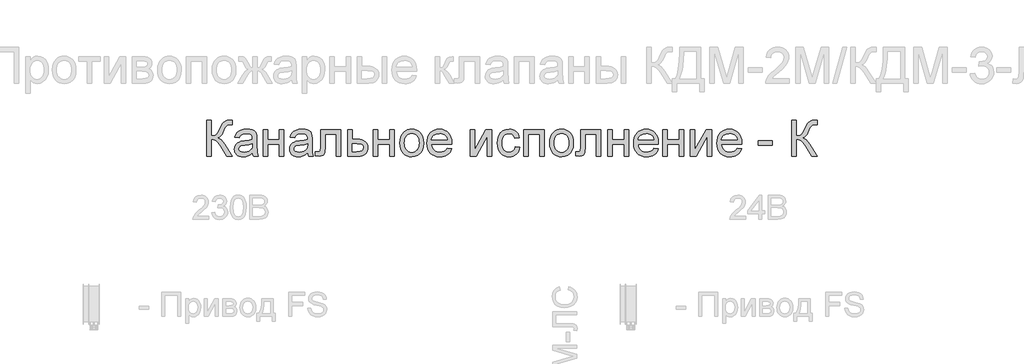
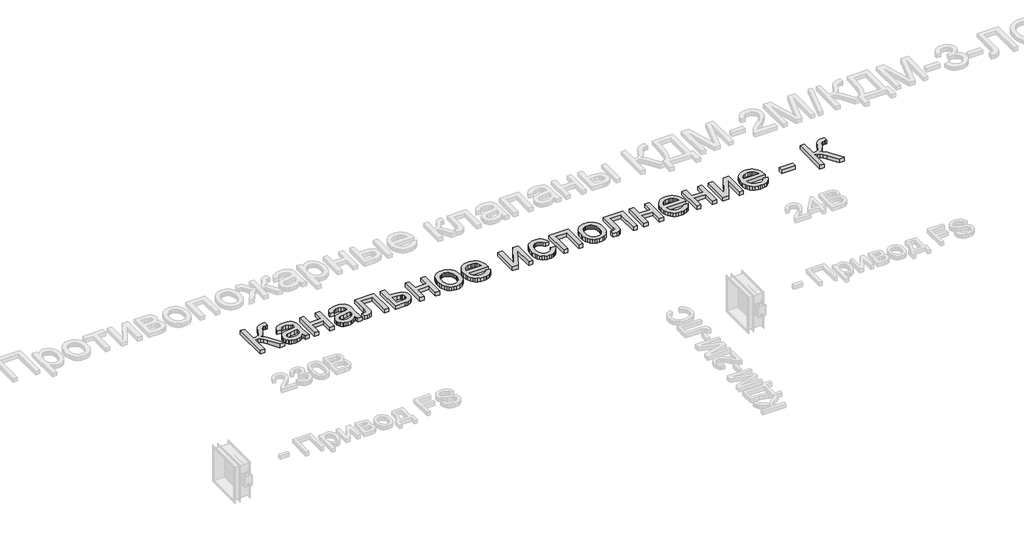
# One storey, part 7 of 23: 1 proxy.
"""IFC4 building model written with IfcOpenShell, lengths in millimetres."""

from ifc_helpers import new_model, si_unit, origin, origin_with_axes, place, context, project, spatial, polyline, outline, extrude, element, save

model = new_model("IFC4")

# Units and contexts
model_context = context("Model", 3, world=origin())
ifc_project = project(units=[si_unit("LENGTHUNIT", "METRE", prefix="MILLI")], contexts=[model_context])

# Site, building, storey
site = spatial("IfcSite", under=ifc_project)
building = spatial("IfcBuilding", under=site)
storey = spatial("IfcBuildingStorey", under=building, Name="Этаж 01", Elevation=0.0)

# Proxy
placement = place(None, origin())
element("IfcBuildingElementProxy", 1, Name="450 мм Arial", ObjectType="450 мм Arial", at=placement, inside=storey, context=model_context, shape_type="SweptSolid", body=[
    extrude(outline(polyline([(3648.5482803, -12674.0978463), (3704.7552982, -12674.0978463), (3704.7552982, -12870.8224088), (3742.807559, -12867.1036339), (3767.6039656, -12855.9473093), (3787.652416, -12829.6963266), (3811.4608086, -12780.6935774), (3842.4734698, -12717.84491), (3857.4309038, -12700.8153911), (3877.602856, -12686.7224694), (3901.5484727, -12677.2540021), (3927.8269003, -12674.0978463), (3964.7127557, -12674.7565223), (3964.7127557, -12730.9635401), (3952.3076912, -12730.6342021), (3939.9026267, -12730.3048641), (3914.1593735, -12733.6805786), (3895.9908941, -12743.8077219), (3880.3473393, -12765.0774675), (3862.6179772, -12801.6614298), (3840.8679471, -12847.2198524), (3822.8229694, -12872.1397607), (3805.0249953, -12885.2583909), (3784.0159757, -12895.4129791), (3805.7865894, -12904.6756102), (3827.4062565, -12920.8268944), (3848.8749771, -12943.8668316), (3870.1927511, -12973.7954219), (3964.7127557, -13123.7539891), (3899.5038327, -13123.7539891), (3819.5844792, -12997.0686403), (3788.7227645, -12956.4365651), (3763.3225716, -12930.9265929), (3737.3460373, -12917.4649023), (3704.7552982, -12912.9776721), (3704.7552982, -13123.7539891), (3648.5482803, -13123.7539891), (3648.5482803, -12674.0978463)])), origin_with_axes(), (0.0, 0.0, 1.0), 50.0),
    extrude(outline(polyline([(4217.6443361, -13081.5987257), (4190.789567, -13104.6249405), (4163.1388978, -13119.6921538), (4134.0610974, -13128.0079382), (4102.9249344, -13130.7798663), (4077.8986774, -13129.1125927), (4055.9531028, -13124.1107719), (4037.0882108, -13115.7744039), (4021.3040012, -13104.1034887), (4008.8406165, -13089.8390368), (3999.9381988, -13073.7220587), (3994.5967482, -13055.7525543), (3992.8162646, -13035.9305237), (3995.5058583, -13012.6298605), (4003.5746392, -12991.4698943), (4016.0208709, -12973.3563046), (4031.8428171, -12959.1947708), (4050.4366914, -12948.491286), (4071.1987075, -12940.7518431), (4119.8309515, -12932.2988345), (4177.3004316, -12923.4067087), (4217.3149981, -12912.9776721), (4217.6443361, -12900.4628283), (4213.7746146, -12875.378251), (4202.1654503, -12858.9662409), (4176.2026383, -12846.7807351), (4140.0303485, -12842.7188998), (4106.5476523, -12845.4222159), (4083.1646547, -12853.532164), (4067.2192067, -12868.5307652), (4056.0491597, -12891.9000405), (3999.8421419, -12884.8741632), (4009.59878, -12854.1359503), (4024.1582639, -12829.9844974), (4044.8791127, -12811.5141248), (4073.1198458, -12797.8191532), (4107.6591681, -12789.3386998), (4147.2757844, -12786.511882), (4185.2731556, -12789.0093618), (4215.3938598, -12796.5018012), (4238.104459, -12807.7679051), (4253.8715155, -12821.5863785), (4264.3279969, -12838.670787), (4271.1068706, -12859.7346963), (4273.8513539, -12908.9158369), (4273.8513539, -12978.8452712), (4276.7056165, -13076.4939868), (4287.9031084, -13123.7539891), (4231.6960905, -13123.7539891), (4222.6941853, -13104.213268), (4217.6443361, -13081.5987257)]), holes=[polyline([(4217.6443361, -12969.18469), (4179.8802459, -12978.543378), (4126.966608, -12986.4200451), (4078.6088124, -12995.5317296), (4066.0253565, -13001.7617067), (4056.7078357, -13010.3519394), (4050.9444208, -13020.6437518), (4049.0232825, -13031.9784678), (4053.2086195, -13048.692371), (4065.7646306, -13062.3873427), (4086.4168674, -13071.526472), (4114.8908815, -13074.5728485), (4145.0801978, -13071.2108564), (4171.7565754, -13061.1248803), (4193.3831037, -13046.2635033), (4208.4228722, -13028.5753085), (4215.0919666, -13010.3519394), (4217.3149981, -12985.1026931), (4217.6443361, -12969.18469)])]), origin_with_axes(), (0.0, 0.0, 1.0), 50.0),
    extrude(outline(polyline([(4351.1360035, -12793.5377592), (4407.3430213, -12793.5377592), (4407.3430213, -12920.0035494), (4554.8864432, -12920.0035494), (4554.8864432, -12793.5377592), (4611.093461, -12793.5377592), (4611.093461, -13123.7539891), (4554.8864432, -13123.7539891), (4554.8864432, -12976.2105672), (4407.3430213, -12976.2105672), (4407.3430213, -13123.7539891), (4351.1360035, -13123.7539891), (4351.1360035, -12793.5377592)])), origin_with_axes(), (0.0, 0.0, 1.0), 50.0),
    extrude(outline(polyline([(4906.1803047, -13081.5987257), (4879.3255357, -13104.6249405), (4851.6748665, -13119.6921538), (4822.597066, -13128.0079382), (4791.4609031, -13130.7798663), (4766.434646, -13129.1125927), (4744.4890715, -13124.1107719), (4725.6241795, -13115.7744039), (4709.8399699, -13104.1034887), (4697.3765852, -13089.8390368), (4688.4741675, -13073.7220587), (4683.1327169, -13055.7525543), (4681.3522333, -13035.9305237), (4684.041827, -13012.6298605), (4692.1106078, -12991.4698943), (4704.5568396, -12973.3563046), (4720.3787858, -12959.1947708), (4738.9726601, -12948.491286), (4759.7346762, -12940.7518431), (4808.3669202, -12932.2988345), (4865.8364003, -12923.4067087), (4905.8509668, -12912.9776721), (4906.1803047, -12900.4628283), (4902.3105833, -12875.378251), (4890.701419, -12858.9662409), (4864.738607, -12846.7807351), (4828.5663172, -12842.7188998), (4795.083621, -12845.4222159), (4771.7006234, -12853.532164), (4755.7551754, -12868.5307652), (4744.5851284, -12891.9000405), (4688.3781106, -12884.8741632), (4698.1347487, -12854.1359503), (4712.6942326, -12829.9844974), (4733.4150814, -12811.5141248), (4761.6558145, -12797.8191532), (4796.1951368, -12789.3386998), (4835.8117531, -12786.511882), (4873.8091243, -12789.0093618), (4903.9298284, -12796.5018012), (4926.6404277, -12807.7679051), (4942.4074842, -12821.5863785), (4952.8639656, -12838.670787), (4959.6428393, -12859.7346963), (4962.3873226, -12908.9158369), (4962.3873226, -12978.8452712), (4965.2415852, -13076.4939868), (4976.4390771, -13123.7539891), (4920.2320592, -13123.7539891), (4911.230154, -13104.213268), (4906.1803047, -13081.5987257)]), holes=[polyline([(4906.1803047, -12969.18469), (4868.4162146, -12978.543378), (4815.5025767, -12986.4200451), (4767.1447811, -12995.5317296), (4754.5613252, -13001.7617067), (4745.2438044, -13010.3519394), (4739.4803895, -13020.6437518), (4737.5592512, -13031.9784678), (4741.7445882, -13048.692371), (4754.3005993, -13062.3873427), (4774.9528361, -13071.526472), (4803.4268502, -13074.5728485), (4833.6161665, -13071.2108564), (4860.2925441, -13061.1248803), (4881.9190724, -13046.2635033), (4896.9588409, -13028.5753085), (4903.6279353, -13010.3519394), (4905.8509668, -12985.1026931), (4906.1803047, -12969.18469)])]), origin_with_axes(), (0.0, 0.0, 1.0), 50.0),
    extrude(outline(polyline([(5067.7754811, -12793.5377592), (5320.7070614, -12793.5377592), (5320.7070614, -13123.4246511), (5264.5000436, -13123.4246511), (5264.5000436, -12849.7447771), (5123.9824989, -12849.7447771), (5123.9824989, -13007.2781181), (5120.195112, -13079.9520357), (5113.1006227, -13096.4052131), (5099.3919286, -13110.635359), (5078.5887452, -13120.4743316), (5050.210788, -13123.7539891), (5004.542586, -13120.8997265), (5004.542586, -13067.5469712), (5029.682053, -13067.5469712), (5055.0959683, -13064.0889223), (5061.4494471, -13059.6154145), (5065.2505564, -13053.1109891), (5067.7754811, -13004.0945175), (5067.7754811, -12793.5377592)])), origin_with_axes(), (0.0, 0.0, 1.0), 50.0),
    extrude(outline(polyline([(5405.0175882, -12793.5377592), (5461.224606, -12793.5377592), (5461.224606, -12912.9776721), (5525.9944118, -12912.9776721), (5555.8955572, -12914.7375721), (5582.14654, -12920.0172718), (5604.7473599, -12928.8167714), (5623.698017, -12941.1360707), (5638.6828958, -12956.549775), (5649.3863806, -12974.6324893), (5655.8084716, -12995.3842136), (5657.9491685, -13018.8049479), (5656.1275177, -13039.7007576), (5650.6625654, -13059.0253506), (5641.5543114, -13076.7787269), (5628.8027559, -13092.9608865), (5612.0442548, -13106.4328689), (5590.9151641, -13116.0557135), (5565.4154837, -13121.8294202), (5535.5452136, -13123.7539891), (5405.0175882, -13123.7539891), (5405.0175882, -12793.5377592)]), holes=[polyline([(5461.224606, -13067.5469712), (5513.6991266, -13067.5469712), (5554.4135363, -13064.5966517), (5581.487864, -13055.7456931), (5596.678579, -13040.6373126), (5601.7421507, -13018.9147273), (5597.995931, -13000.554134), (5586.7572719, -12984.3342378), (5576.990342, -12977.7063106), (5562.674431, -12972.9720769), (5520.3956658, -12969.18469), (5461.224606, -12969.18469), (5461.224606, -13067.5469712)])]), origin_with_axes(), (0.0, 0.0, 1.0), 50.0),
    extrude(outline(polyline([(5728.2079408, -12793.5377592), (5784.4149587, -12793.5377592), (5784.4149587, -12920.0035494), (5931.9583805, -12920.0035494), (5931.9583805, -12793.5377592), (5988.1653984, -12793.5377592), (5988.1653984, -13123.7539891), (5931.9583805, -13123.7539891), (5931.9583805, -12976.2105672), (5784.4149587, -12976.2105672), (5784.4149587, -13123.7539891), (5728.2079408, -13123.7539891), (5728.2079408, -12793.5377592)])), origin_with_axes(), (0.0, 0.0, 1.0), 50.0),
    extrude(outline(polyline([(6058.4241707, -12958.6458742), (6061.463686, -12915.8799632), (6070.5822317, -12879.0284138), (6085.7798079, -12848.0912259), (6107.0564147, -12823.0683995), (6128.4771068, -12807.0749231), (6152.1208304, -12795.6510114), (6177.9875854, -12788.7966643), (6206.0773719, -12786.511882), (6237.0866025, -12789.2941019), (6265.12493, -12797.6407617), (6290.1923543, -12811.5518614), (6312.2888754, -12831.027401), (6330.3235612, -12855.4087045), (6343.2054797, -12884.0370958), (6350.9346307, -12916.9125751), (6353.5110144, -12954.0351422), (6348.9551722, -13010.8185016), (6343.2603693, -13034.1260259), (6335.2876454, -13054.0441134), (6312.9063841, -13086.4152939), (6282.2093385, -13110.635359), (6245.7488779, -13125.7437395), (6206.0773719, -13130.7798663), (6174.6153016, -13128.0079382), (6146.3162482, -13119.6921538), (6121.1802118, -13105.8325132), (6099.2071925, -13086.4290163), (6081.3646204, -13061.8110012), (6068.6199262, -13032.3078058), (6060.9731096, -12997.9194301), (6058.4241707, -12958.6458742)]), holes=[polyline([(6114.6311886, -12958.5360948), (6116.2572949, -12985.7991057), (6121.135614, -13009.4050927), (6129.2661457, -13029.3540556), (6140.6488902, -13045.6459946), (6154.4948084, -13058.3014931), (6170.0148614, -13067.341135), (6187.2090493, -13072.7649201), (6206.0773719, -13074.5728485), (6224.8496376, -13072.7546283), (6241.9752134, -13067.2999677), (6257.4540992, -13058.2088668), (6271.286295, -13045.4813256), (6282.6690394, -13029.0281482), (6290.7995712, -13008.7601391), (6295.6778902, -12984.6772982), (6297.3039966, -12956.7796255), (6295.6675984, -12930.3811268), (6290.7584039, -12907.3926486), (6282.5764131, -12887.814191), (6271.121626, -12871.6457537), (6257.2379711, -12858.9902552), (6241.7693771, -12849.9506133), (6224.7158441, -12844.5268282), (6206.0773719, -12842.7188998), (6187.2090493, -12844.519967), (6170.0148614, -12849.9231685), (6154.4948084, -12858.9285043), (6140.6488902, -12871.5359744), (6129.2661457, -12887.7798849), (6121.135614, -12907.6945418), (6116.2572949, -12931.2799451), (6114.6311886, -12958.5360948)])]), origin_with_axes(), (0.0, 0.0, 1.0), 50.0),
    extrude(outline(polyline([(6647.9391822, -13025.3917079), (6703.0484067, -13032.4175851), (6694.5988288, -13054.490092), (6683.1920701, -13073.9416173), (6668.8281306, -13090.7721611), (6651.5070105, -13104.9817234), (6631.4071009, -13116.2684109), (6608.7067935, -13124.3303306), (6583.4060881, -13129.1674824), (6555.5049848, -13130.7798663), (6520.6294634, -13127.9976464), (6489.5550513, -13119.6509866), (6462.2817486, -13105.7398869), (6438.8095552, -13086.2643473), (6419.9343714, -13061.7664033), (6406.4520972, -13032.7880903), (6398.3627327, -12999.3294084), (6395.6662778, -12961.3903574), (6398.3901775, -12922.16483), (6406.5618765, -12887.5912017), (6420.1813748, -12857.6694726), (6439.2486725, -12832.3996427), (6462.659115, -12812.3237474), (6489.3080478, -12797.9838221), (6519.1954709, -12789.379867), (6552.3213842, -12786.511882), (6584.3803797, -12789.3730058), (6613.3724151, -12797.9563773), (6639.2974904, -12812.2619965), (6662.1556056, -12832.2898633), (6680.8146614, -12857.5048036), (6694.1425584, -12887.371643), (6702.1392966, -12921.8903816), (6704.804876, -12961.0610195), (6704.475538, -12976.2105672), (6451.8732957, -12976.2105672), (6455.128939, -12998.639857), (6461.602489, -13018.2834961), (6471.2939456, -13035.1414848), (6484.2033089, -13049.2138228), (6499.6170132, -13060.3083966), (6516.8214928, -13068.2330921), (6535.8167478, -13072.9879094), (6556.6027782, -13074.5728485), (6586.5176461, -13071.6362514), (6611.7120027, -13062.82646), (6632.1858481, -13047.5945777), (6647.9391822, -13025.3917079)]), holes=[polyline([(6451.8732957, -12920.0035494), (6648.5978582, -12920.0035494), (6640.9956394, -12890.3082401), (6626.0930952, -12869.0659395), (6610.765156, -12857.5391096), (6593.3239646, -12849.3056597), (6573.7695212, -12844.3655898), (6552.1018256, -12842.7188998), (6514.2142337, -12847.9745853), (6482.8859569, -12863.7416419), (6470.4294334, -12875.1415393), (6461.108482, -12888.3184898), (6454.9231027, -12903.2724931), (6451.8732957, -12920.0035494)])]), origin_with_axes(), (0.0, 0.0, 1.0), 50.0),
    extrude(outline(polyline([(6936.6588247, -12793.5377592), (6992.8658425, -12793.5377592), (6992.8658425, -13045.3715462), (7130.9682418, -12793.5377592), (7203.6421595, -12793.5377592), (7203.6421595, -13123.7539891), (7147.4351416, -13123.7539891), (7147.4351416, -12873.4571127), (7010.2109769, -13123.7539891), (6936.6588247, -13123.7539891), (6936.6588247, -12793.5377592)])), origin_with_axes(), (0.0, 0.0, 1.0), 50.0),
    extrude(outline(polyline([(7498.7290032, -13004.3140762), (7554.936021, -13011.3399534), (7548.8226845, -13037.8619538), (7539.2650214, -13061.3307166), (7526.2630318, -13081.7462417), (7509.8167157, -13099.1085291), (7490.619055, -13112.9647391), (7469.3630319, -13122.862032), (7446.0486464, -13128.8004078), (7420.6758983, -13130.7798663), (7389.1520771, -13128.01823), (7360.8873298, -13119.7333211), (7335.8816564, -13105.9251395), (7314.1350569, -13086.5936853), (7296.5326271, -13062.1026025), (7283.959463, -13032.8155352), (7276.4155646, -12998.7324833), (7273.9009318, -12959.8534468), (7278.1960481, -12909.8352388), (7291.0813972, -12866.4861252), (7300.796868, -12847.7310124), (7312.7628152, -12831.4802407), (7326.9792387, -12817.7338101), (7343.4461384, -12806.4917204), (7380.1536025, -12791.5068416), (7419.907443, -12786.511882), (7444.8445043, -12788.227184), (7467.4007264, -12793.3730902), (7487.5761092, -12801.9496005), (7505.3706527, -12813.9567149), (7520.4824639, -12829.1199851), (7532.6096494, -12847.1649628), (7541.7522094, -12868.0916479), (7547.9101438, -12891.9000405), (7491.7031259, -12898.9259177), (7481.5073705, -12874.4039595), (7465.6305347, -12856.825544), (7444.950853, -12846.2455609), (7420.3465603, -12842.7188998), (7401.2483872, -12844.4547855), (7384.0233239, -12849.6624426), (7368.6713705, -12858.341871), (7355.1925269, -12870.4930708), (7344.2180244, -12886.3973515), (7336.3790939, -12906.3360226), (7331.6757357, -12930.3090841), (7330.1079496, -12958.3165362), (7331.6414297, -12986.7459525), (7336.2418698, -13010.996893), (7343.90927, -13031.0693577), (7354.6436303, -13046.9633465), (7367.8548867, -13059.0425036), (7382.9529754, -13067.670473), (7399.9378964, -13072.8472546), (7418.8096497, -13074.5728485), (7447.914895, -13070.2640097), (7471.7781772, -13057.3374934), (7489.1370341, -13035.4639615), (7498.7290032, -13004.3140762)])), origin_with_axes(), (0.0, 0.0, 1.0), 50.0),
    extrude(outline(polyline([(7604.1171617, -12793.5377592), (7857.048742, -12793.5377592), (7857.048742, -13123.7539891), (7800.8417241, -13123.7539891), (7800.8417241, -12849.7447771), (7660.3241795, -12849.7447771), (7660.3241795, -13123.7539891), (7604.1171617, -13123.7539891), (7604.1171617, -12793.5377592)])), origin_with_axes(), (0.0, 0.0, 1.0), 50.0),
    extrude(outline(polyline([(7927.3075143, -12958.6458742), (7930.3470295, -12915.8799632), (7939.4655753, -12879.0284138), (7954.6631515, -12848.0912259), (7975.9397583, -12823.0683995), (7997.3604504, -12807.0749231), (8021.0041739, -12795.6510114), (8046.870929, -12788.7966643), (8074.9607155, -12786.511882), (8105.9699461, -12789.2941019), (8134.0082736, -12797.6407617), (8159.0756978, -12811.5518614), (8181.172219, -12831.027401), (8199.2069048, -12855.4087045), (8212.0888233, -12884.0370958), (8219.8179743, -12916.9125751), (8222.394358, -12954.0351422), (8217.8385158, -13010.8185016), (8212.1437129, -13034.1260259), (8204.170989, -13054.0441134), (8181.7897277, -13086.4152939), (8151.0926821, -13110.635359), (8114.6322215, -13125.7437395), (8074.9607155, -13130.7798663), (8043.4986451, -13128.0079382), (8015.1995918, -13119.6921538), (7990.0635554, -13105.8325132), (7968.090536, -13086.4290163), (7950.247964, -13061.8110012), (7937.5032697, -13032.3078058), (7929.8564532, -12997.9194301), (7927.3075143, -12958.6458742)]), holes=[polyline([(7983.5145322, -12958.5360948), (7985.1406385, -12985.7991057), (7990.0189576, -13009.4050927), (7998.1494893, -13029.3540556), (8009.5322338, -13045.6459946), (8023.378152, -13058.3014931), (8038.898205, -13067.341135), (8056.0923929, -13072.7649201), (8074.9607155, -13074.5728485), (8093.7329812, -13072.7546283), (8110.858557, -13067.2999677), (8126.3374428, -13058.2088668), (8140.1696386, -13045.4813256), (8151.552383, -13029.0281482), (8159.6829148, -13008.7601391), (8164.5612338, -12984.6772982), (8166.1873402, -12956.7796255), (8164.550942, -12930.3811268), (8159.6417475, -12907.3926486), (8151.4597567, -12887.814191), (8140.0049696, -12871.6457537), (8126.1213147, -12858.9902552), (8110.6527207, -12849.9506133), (8093.5991877, -12844.5268282), (8074.9607155, -12842.7188998), (8056.0923929, -12844.519967), (8038.898205, -12849.9231685), (8023.378152, -12858.9285043), (8009.5322338, -12871.5359744), (7998.1494893, -12887.7798849), (7990.0189576, -12907.6945418), (7985.1406385, -12931.2799451), (7983.5145322, -12958.5360948)])]), origin_with_axes(), (0.0, 0.0, 1.0), 50.0),
    extrude(outline(polyline([(8313.730762, -12793.5377592), (8566.6623424, -12793.5377592), (8566.6623424, -13123.4246511), (8510.4553245, -13123.4246511), (8510.4553245, -12849.7447771), (8369.9377799, -12849.7447771), (8369.9377799, -13007.2781181), (8366.1503929, -13079.9520357), (8359.0559036, -13096.4052131), (8345.3472096, -13110.635359), (8324.5440262, -13120.4743316), (8296.166069, -13123.7539891), (8250.497867, -13120.8997265), (8250.497867, -13067.5469712), (8275.6373339, -13067.5469712), (8301.0512492, -13064.0889223), (8307.404728, -13059.6154145), (8311.2058374, -13053.1109891), (8313.730762, -13004.0945175), (8313.730762, -12793.5377592)])), origin_with_axes(), (0.0, 0.0, 1.0), 50.0),
    extrude(outline(polyline([(8650.9728691, -12793.5377592), (8707.179887, -12793.5377592), (8707.179887, -12920.0035494), (8854.7233089, -12920.0035494), (8854.7233089, -12793.5377592), (8910.9303267, -12793.5377592), (8910.9303267, -13123.7539891), (8854.7233089, -13123.7539891), (8854.7233089, -12976.2105672), (8707.179887, -12976.2105672), (8707.179887, -13123.7539891), (8650.9728691, -13123.7539891), (8650.9728691, -12793.5377592)])), origin_with_axes(), (0.0, 0.0, 1.0), 50.0),
    extrude(outline(polyline([(9226.4361261, -13025.3917079), (9281.5453507, -13032.4175851), (9273.0957727, -13054.490092), (9261.689014, -13073.9416173), (9247.3250746, -13090.7721611), (9230.0039544, -13104.9817234), (9209.9040449, -13116.2684109), (9187.2037375, -13124.3303306), (9161.9030321, -13129.1674824), (9134.0019288, -13130.7798663), (9099.1264074, -13127.9976464), (9068.0519953, -13119.6509866), (9040.7786925, -13105.7398869), (9017.3064992, -13086.2643473), (8998.4313153, -13061.7664033), (8984.9490411, -13032.7880903), (8976.8596766, -12999.3294084), (8974.1632218, -12961.3903574), (8976.8871215, -12922.16483), (8985.0588205, -12887.5912017), (8998.6783188, -12857.6694726), (9017.7456165, -12832.3996427), (9041.156059, -12812.3237474), (9067.8049918, -12797.9838221), (9097.6924148, -12789.379867), (9130.8183282, -12786.511882), (9162.8773237, -12789.3730058), (9191.8693591, -12797.9563773), (9217.7944344, -12812.2619965), (9240.6525496, -12832.2898633), (9259.3116054, -12857.5048036), (9272.6395024, -12887.371643), (9280.6362406, -12921.8903816), (9283.30182, -12961.0610195), (9282.972482, -12976.2105672), (9030.3702397, -12976.2105672), (9033.625883, -12998.639857), (9040.0994329, -13018.2834961), (9049.7908896, -13035.1414848), (9062.7002528, -13049.2138228), (9078.1139571, -13060.3083966), (9095.3184368, -13068.2330921), (9114.3136918, -13072.9879094), (9135.0997221, -13074.5728485), (9165.01459, -13071.6362514), (9190.2089467, -13062.82646), (9210.682792, -13047.5945777), (9226.4361261, -13025.3917079)]), holes=[polyline([(9030.3702397, -12920.0035494), (9227.0948021, -12920.0035494), (9219.4925834, -12890.3082401), (9204.5900391, -12869.0659395), (9189.2620999, -12857.5391096), (9171.8209086, -12849.3056597), (9152.2664651, -12844.3655898), (9130.5987695, -12842.7188998), (9092.7111777, -12847.9745853), (9061.3829009, -12863.7416419), (9048.9263773, -12875.1415393), (9039.6054259, -12888.3184898), (9033.4200467, -12903.2724931), (9030.3702397, -12920.0035494)])]), origin_with_axes(), (0.0, 0.0, 1.0), 50.0),
    extrude(outline(polyline([(9339.5088378, -12793.5377592), (9395.7158557, -12793.5377592), (9395.7158557, -12920.0035494), (9543.2592776, -12920.0035494), (9543.2592776, -12793.5377592), (9599.4662954, -12793.5377592), (9599.4662954, -13123.7539891), (9543.2592776, -13123.7539891), (9543.2592776, -12976.2105672), (9395.7158557, -12976.2105672), (9395.7158557, -13123.7539891), (9339.5088378, -13123.7539891), (9339.5088378, -12793.5377592)])), origin_with_axes(), (0.0, 0.0, 1.0), 50.0),
    extrude(outline(polyline([(9683.7768222, -12793.5377592), (9739.98384, -12793.5377592), (9739.98384, -13045.3715462), (9878.0862394, -12793.5377592), (9950.760157, -12793.5377592), (9950.760157, -13123.7539891), (9894.5531391, -13123.7539891), (9894.5531391, -12873.4571127), (9757.3289744, -13123.7539891), (9683.7768222, -13123.7539891), (9683.7768222, -12793.5377592)])), origin_with_axes(), (0.0, 0.0, 1.0), 50.0),
    extrude(outline(polyline([(10266.2659564, -13025.3917079), (10321.3751809, -13032.4175851), (10312.925603, -13054.490092), (10301.5188443, -13073.9416173), (10287.1549049, -13090.7721611), (10269.8337847, -13104.9817234), (10249.7338752, -13116.2684109), (10227.0335677, -13124.3303306), (10201.7328624, -13129.1674824), (10173.8317591, -13130.7798663), (10138.9562376, -13127.9976464), (10107.8818255, -13119.6509866), (10080.6085228, -13105.7398869), (10057.1363294, -13086.2643473), (10038.2611456, -13061.7664033), (10024.7788714, -13032.7880903), (10016.6895069, -12999.3294084), (10013.9930521, -12961.3903574), (10016.7169517, -12922.16483), (10024.8886507, -12887.5912017), (10038.5081491, -12857.6694726), (10057.5754468, -12832.3996427), (10080.9858893, -12812.3237474), (10107.634822, -12797.9838221), (10137.5222451, -12789.379867), (10170.6481585, -12786.511882), (10202.7071539, -12789.3730058), (10231.6991893, -12797.9563773), (10257.6242646, -12812.2619965), (10280.4823799, -12832.2898633), (10299.1414357, -12857.5048036), (10312.4693327, -12887.371643), (10320.4660709, -12921.8903816), (10323.1316503, -12961.0610195), (10322.8023123, -12976.2105672), (10070.2000699, -12976.2105672), (10073.4557132, -12998.639857), (10079.9292632, -13018.2834961), (10089.6207198, -13035.1414848), (10102.5300831, -13049.2138228), (10117.9437874, -13060.3083966), (10135.1482671, -13068.2330921), (10154.1435221, -13072.9879094), (10174.9295524, -13074.5728485), (10204.8444203, -13071.6362514), (10230.0387769, -13062.82646), (10250.5126223, -13047.5945777), (10266.2659564, -13025.3917079)]), holes=[polyline([(10070.2000699, -12920.0035494), (10266.9246324, -12920.0035494), (10259.3224137, -12890.3082401), (10244.4198694, -12869.0659395), (10229.0919302, -12857.5391096), (10211.6507389, -12849.3056597), (10192.0962954, -12844.3655898), (10170.4285998, -12842.7188998), (10132.5410079, -12847.9745853), (10101.2127311, -12863.7416419), (10088.7562076, -12875.1415393), (10079.4352562, -12888.3184898), (10073.249877, -12903.2724931), (10070.2000699, -12920.0035494)])]), origin_with_axes(), (0.0, 0.0, 1.0), 50.0),
    extrude(outline(polyline([(10526.88209, -12990.2623217), (10526.88209, -12934.0553038), (10702.5290208, -12934.0553038), (10702.5290208, -12990.2623217), (10526.88209, -12990.2623217)])), origin_with_axes(), (0.0, 0.0, 1.0), 50.0),
    extrude(outline(polyline([(10948.4347239, -12674.0978463), (11004.6417417, -12674.0978463), (11004.6417417, -12870.8224088), (11042.6940026, -12867.1036339), (11067.4904091, -12855.9473093), (11087.5388596, -12829.6963266), (11111.3472522, -12780.6935774), (11142.3599134, -12717.84491), (11157.3173473, -12700.8153911), (11177.4892995, -12686.7224694), (11201.4349163, -12677.2540021), (11227.7133438, -12674.0978463), (11264.5991993, -12674.7565223), (11264.5991993, -12730.9635401), (11252.1941348, -12730.6342021), (11239.7890703, -12730.3048641), (11214.045817, -12733.6805786), (11195.8773376, -12743.8077219), (11180.2337828, -12765.0774675), (11162.5044208, -12801.6614298), (11140.7543907, -12847.2198524), (11122.709413, -12872.1397607), (11104.9114388, -12885.2583909), (11083.9024192, -12895.4129791), (11105.673033, -12904.6756102), (11127.2927001, -12920.8268944), (11148.7614207, -12943.8668316), (11170.0791946, -12973.7954219), (11264.5991993, -13123.7539891), (11199.3902762, -13123.7539891), (11119.4709227, -12997.0686403), (11088.6092081, -12956.4365651), (11063.2090152, -12930.9265929), (11037.2324808, -12917.4649023), (11004.6417417, -12912.9776721), (11004.6417417, -13123.7539891), (10948.4347239, -13123.7539891), (10948.4347239, -12674.0978463)])), origin_with_axes(), (0.0, 0.0, 1.0), 50.0),
])

save(model, "model.ifc")
